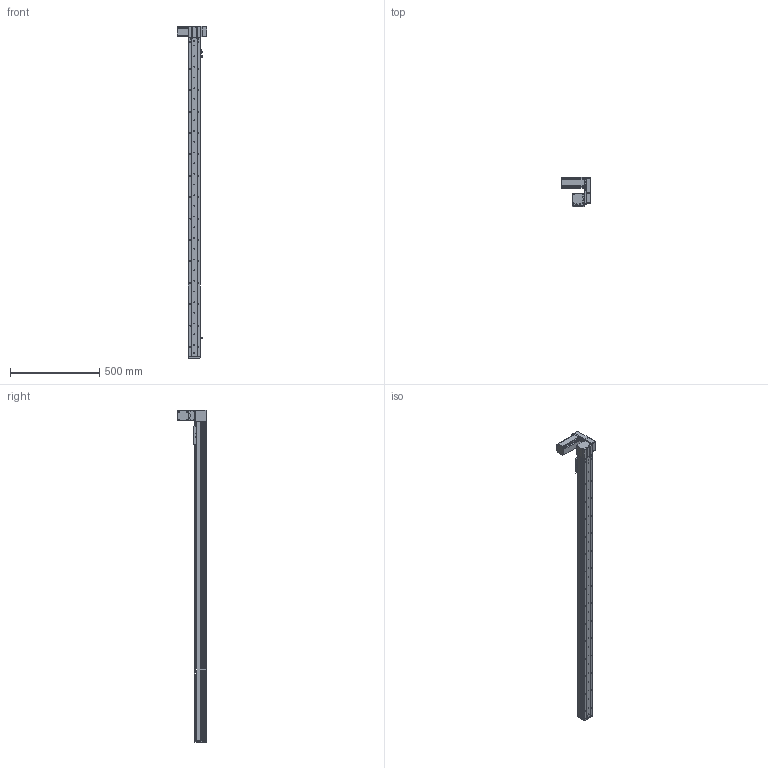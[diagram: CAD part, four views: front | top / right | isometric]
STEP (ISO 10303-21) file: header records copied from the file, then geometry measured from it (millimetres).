
FILE_DESCRIPTION (( 'STEP AP214' ), '1' );
FILE_NAME ('KSD68BS-S1600-MLU-CM.STEP', '2019-10-19T09:29:55', ( '微软用户' ), ( '微软中国' ), 'SwSTEP 2.0', 'SolidWorks 2014', '' );
FILE_SCHEMA (( 'AUTOMOTIVE_DESIGN' ));
Length unit declared in the file: millimetre
Products named in the file (11): KSD68BS-S1600-MLU-CM; 悵誘欶奻狟殏; 68宽马达安装板连板上折同步带; 68宽单导轨半封闭同步带主动轮座左; 68单导轨同步带半封闭端板; KSD68BS 1600俴最裔啣圉猾敕; 覜茼え68遵圉猾敕; KSD68BS半封闭同步带传动导轨座; U倰嫖萇EEㄜSX672; 台达ECMA－C20604AS伺服电机（400W); KSD68BS 1600俴最菁啣圉猾敕
Assembly tree (12 placements, depth 2):
  KSD68BS-S1600-MLU-CM
    KSD68BS 1600俴最菁啣圉猾敕
    台达ECMA－C20604AS伺服电机（400W)
    U倰嫖萇EEㄜSX672  x3
    KSD68BS半封闭同步带传动导轨座
    覜茼え68遵圉猾敕
    KSD68BS 1600俴最裔啣圉猾敕
    68单导轨同步带半封闭端板
    68宽单导轨半封闭同步带主动轮座左
    68宽马达安装板连板上折同步带
    悵誘欶奻狟殏
Bounding box: 167.2 x 159.5 x 1862 mm (x, y, z)
Volume: 3128044.6 mm3; surface area: 1160260.6 mm2
Topology: 13 solids, 13 shells, 1576 faces, 4610 edges, 3004 vertices
Faces by surface type: cylinder 828, plane 665, cone 83
Entity records: 61246 total; most frequent: CARTESIAN_POINT 12286, ORIENTED_EDGE 7972, DIRECTION 7722, EDGE_CURVE 3986, AXIS2_PLACEMENT_3D 2784, VERTEX_POINT 2628, LINE 2154, VECTOR 2154
